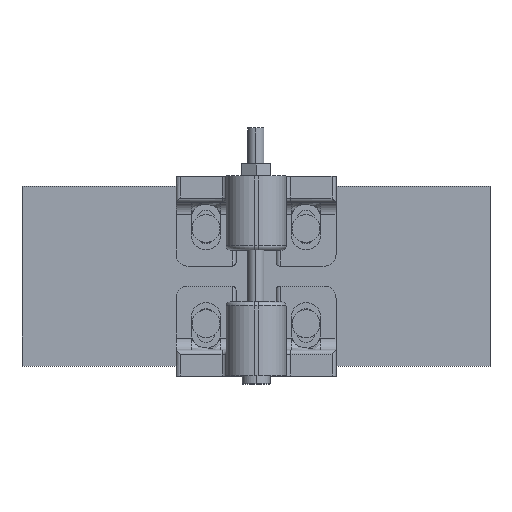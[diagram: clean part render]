
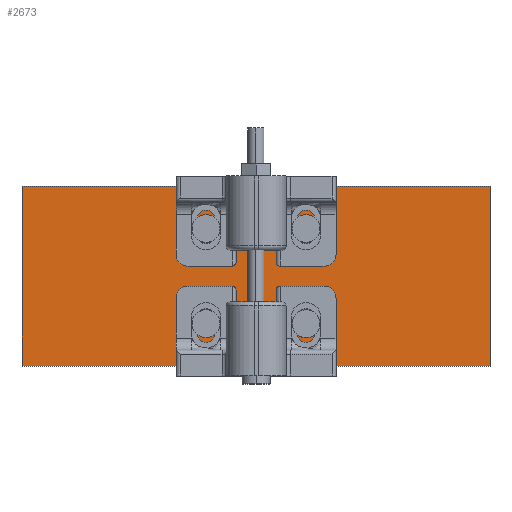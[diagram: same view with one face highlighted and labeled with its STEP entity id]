
A CAD part, top view. The second image highlights one B-rep face of the part: STEP entity #2673.
In plain terms, the highlighted planar face has unit normal (0, 0, 1).
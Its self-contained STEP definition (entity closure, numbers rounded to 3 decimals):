
#104 = VERTEX_POINT ( 'NONE', #9336 ) ;
#207 = ORIENTED_EDGE ( 'NONE', *, *, #9162, .T. ) ;
#222 = ORIENTED_EDGE ( 'NONE', *, *, #580, .T. ) ;
#267 = VERTEX_POINT ( 'NONE', #862 ) ;
#386 = ORIENTED_EDGE ( 'NONE', *, *, #7589, .T. ) ;
#446 = CARTESIAN_POINT ( 'NONE',  ( 58.5, -22.5, 6.25 ) ) ;
#494 = DIRECTION ( 'NONE',  ( 0., 0., -1. ) ) ;
#519 = VERTEX_POINT ( 'NONE', #9287 ) ;
#580 = EDGE_CURVE ( 'NONE', #267, #6630, #3363, .T. ) ;
#636 = AXIS2_PLACEMENT_3D ( 'NONE', #3314, #2622, #4155 ) ;
#644 = CIRCLE ( 'NONE', #4723, 2. ) ;
#647 = AXIS2_PLACEMENT_3D ( 'NONE', #2138, #7096, #3502 ) ;
#653 = AXIS2_PLACEMENT_3D ( 'NONE', #4688, #6957, #2667 ) ;
#704 = ORIENTED_EDGE ( 'NONE', *, *, #7119, .T. ) ;
#777 = LINE ( 'NONE', #9301, #4282 ) ;
#839 = CIRCLE ( 'NONE', #6564, 2. ) ;
#852 = EDGE_CURVE ( 'NONE', #3039, #2909, #4115, .T. ) ;
#862 = CARTESIAN_POINT ( 'NONE',  ( -14.5, -11.9, 6.25 ) ) ;
#1046 = VECTOR ( 'NONE', #2226, 1000. ) ;
#1302 = CARTESIAN_POINT ( 'NONE',  ( 12.5, 11.9, 6.25 ) ) ;
#1383 = EDGE_LOOP ( 'NONE', ( #222, #704 ) ) ;
#1553 = EDGE_CURVE ( 'NONE', #104, #3406, #777, .T. ) ;
#1637 = CARTESIAN_POINT ( 'NONE',  ( -14.5, 11.9, 6.25 ) ) ;
#1658 = VECTOR ( 'NONE', #6725, 1000. ) ;
#1793 = FACE_BOUND ( 'NONE', #3757, .T. ) ;
#1935 = VERTEX_POINT ( 'NONE', #3984 ) ;
#1978 = CIRCLE ( 'NONE', #6947, 2. ) ;
#1983 = CARTESIAN_POINT ( 'NONE',  ( 12.5, -11.9, 6.25 ) ) ;
#2138 = CARTESIAN_POINT ( 'NONE',  ( -12.5, -11.9, 6.25 ) ) ;
#2175 = EDGE_CURVE ( 'NONE', #2909, #3039, #839, .T. ) ;
#2226 = DIRECTION ( 'NONE',  ( 1., 0., 0. ) ) ;
#2238 = AXIS2_PLACEMENT_3D ( 'NONE', #8118, #6794, #8262 ) ;
#2273 = EDGE_LOOP ( 'NONE', ( #2602, #207, #2683, #2389 ) ) ;
#2325 = CIRCLE ( 'NONE', #4738, 2. ) ;
#2365 = PLANE ( 'NONE',  #2238 ) ;
#2389 = ORIENTED_EDGE ( 'NONE', *, *, #4630, .T. ) ;
#2406 = FACE_BOUND ( 'NONE', #1383, .T. ) ;
#2602 = ORIENTED_EDGE ( 'NONE', *, *, #1553, .T. ) ;
#2622 = DIRECTION ( 'NONE',  ( 0., 0., -1. ) ) ;
#2667 = DIRECTION ( 'NONE',  ( 1., 0., 0. ) ) ;
#2673 = ADVANCED_FACE ( 'NONE', ( #2406, #3903, #1793, #5332, #5381 ), #2365, .T. ) ;
#2683 = ORIENTED_EDGE ( 'NONE', *, *, #4907, .T. ) ;
#2764 = DIRECTION ( 'NONE',  ( 1., 0., 0. ) ) ;
#2877 = CARTESIAN_POINT ( 'NONE',  ( -58.5, -22.5, 6.25 ) ) ;
#2909 = VERTEX_POINT ( 'NONE', #5375 ) ;
#2962 = ORIENTED_EDGE ( 'NONE', *, *, #852, .F. ) ;
#2974 = EDGE_LOOP ( 'NONE', ( #8756, #5233 ) ) ;
#3039 = VERTEX_POINT ( 'NONE', #5836 ) ;
#3099 = VERTEX_POINT ( 'NONE', #1637 ) ;
#3229 = CARTESIAN_POINT ( 'NONE',  ( -12.5, 11.9, 6.25 ) ) ;
#3314 = CARTESIAN_POINT ( 'NONE',  ( -12.5, -11.9, 6.25 ) ) ;
#3316 = DIRECTION ( 'NONE',  ( 1., 0., 0. ) ) ;
#3330 = VECTOR ( 'NONE', #5697, 1000. ) ;
#3363 = CIRCLE ( 'NONE', #647, 2. ) ;
#3406 = VERTEX_POINT ( 'NONE', #2877 ) ;
#3432 = DIRECTION ( 'NONE',  ( 1., 0., 0. ) ) ;
#3502 = DIRECTION ( 'NONE',  ( 1., 0., 0. ) ) ;
#3531 = LINE ( 'NONE', #8638, #3330 ) ;
#3603 = CIRCLE ( 'NONE', #5113, 2. ) ;
#3757 = EDGE_LOOP ( 'NONE', ( #6282, #2962 ) ) ;
#3840 = CARTESIAN_POINT ( 'NONE',  ( -58.5, 22.5, 6.25 ) ) ;
#3903 = FACE_BOUND ( 'NONE', #2974, .T. ) ;
#3925 = DIRECTION ( 'NONE',  ( 0., 0., 1. ) ) ;
#3984 = CARTESIAN_POINT ( 'NONE',  ( 14.5, 11.9, 6.25 ) ) ;
#4115 = CIRCLE ( 'NONE', #653, 2. ) ;
#4155 = DIRECTION ( 'NONE',  ( 1., 0., 0. ) ) ;
#4282 = VECTOR ( 'NONE', #7914, 1000. ) ;
#4330 = CARTESIAN_POINT ( 'NONE',  ( -10.5, -11.9, 6.25 ) ) ;
#4331 = EDGE_CURVE ( 'NONE', #4726, #1935, #1978, .T. ) ;
#4630 = EDGE_CURVE ( 'NONE', #519, #104, #9005, .T. ) ;
#4688 = CARTESIAN_POINT ( 'NONE',  ( 12.5, -11.9, 6.25 ) ) ;
#4723 = AXIS2_PLACEMENT_3D ( 'NONE', #7769, #494, #9244 ) ;
#4726 = VERTEX_POINT ( 'NONE', #6129 ) ;
#4738 = AXIS2_PLACEMENT_3D ( 'NONE', #3229, #3925, #3316 ) ;
#4772 = VERTEX_POINT ( 'NONE', #7639 ) ;
#4907 = EDGE_CURVE ( 'NONE', #7518, #519, #3531, .T. ) ;
#4970 = DIRECTION ( 'NONE',  ( 1., 0., 0. ) ) ;
#5113 = AXIS2_PLACEMENT_3D ( 'NONE', #7898, #6520, #2764 ) ;
#5233 = ORIENTED_EDGE ( 'NONE', *, *, #6248, .F. ) ;
#5332 = FACE_BOUND ( 'NONE', #6992, .T. ) ;
#5375 = CARTESIAN_POINT ( 'NONE',  ( 10.5, -11.9, 6.25 ) ) ;
#5381 = FACE_OUTER_BOUND ( 'NONE', #2273, .T. ) ;
#5520 = DIRECTION ( 'NONE',  ( 0., 0., 1. ) ) ;
#5697 = DIRECTION ( 'NONE',  ( 0., 1., 0. ) ) ;
#5836 = CARTESIAN_POINT ( 'NONE',  ( 14.5, -11.9, 6.25 ) ) ;
#6004 = CARTESIAN_POINT ( 'NONE',  ( -58.5, -22.5, 6.25 ) ) ;
#6129 = CARTESIAN_POINT ( 'NONE',  ( 10.5, 11.9, 6.25 ) ) ;
#6248 = EDGE_CURVE ( 'NONE', #4772, #3099, #2325, .T. ) ;
#6282 = ORIENTED_EDGE ( 'NONE', *, *, #2175, .F. ) ;
#6520 = DIRECTION ( 'NONE',  ( 0., 0., 1. ) ) ;
#6564 = AXIS2_PLACEMENT_3D ( 'NONE', #1983, #5520, #3432 ) ;
#6630 = VERTEX_POINT ( 'NONE', #4330 ) ;
#6725 = DIRECTION ( 'NONE',  ( -1., 0., 0. ) ) ;
#6794 = DIRECTION ( 'NONE',  ( 0., 0., 1. ) ) ;
#6926 = ORIENTED_EDGE ( 'NONE', *, *, #4331, .T. ) ;
#6947 = AXIS2_PLACEMENT_3D ( 'NONE', #1302, #7811, #4970 ) ;
#6957 = DIRECTION ( 'NONE',  ( 0., 0., 1. ) ) ;
#6992 = EDGE_LOOP ( 'NONE', ( #6926, #386 ) ) ;
#7096 = DIRECTION ( 'NONE',  ( 0., 0., -1. ) ) ;
#7119 = EDGE_CURVE ( 'NONE', #6630, #267, #7585, .T. ) ;
#7518 = VERTEX_POINT ( 'NONE', #446 ) ;
#7585 = CIRCLE ( 'NONE', #636, 2. ) ;
#7589 = EDGE_CURVE ( 'NONE', #1935, #4726, #644, .T. ) ;
#7639 = CARTESIAN_POINT ( 'NONE',  ( -10.5, 11.9, 6.25 ) ) ;
#7769 = CARTESIAN_POINT ( 'NONE',  ( 12.5, 11.9, 6.25 ) ) ;
#7811 = DIRECTION ( 'NONE',  ( 0., 0., -1. ) ) ;
#7898 = CARTESIAN_POINT ( 'NONE',  ( -12.5, 11.9, 6.25 ) ) ;
#7914 = DIRECTION ( 'NONE',  ( 0., -1., 0. ) ) ;
#8118 = CARTESIAN_POINT ( 'NONE',  ( 0., 0., 6.25 ) ) ;
#8262 = DIRECTION ( 'NONE',  ( 1., 0., 0. ) ) ;
#8638 = CARTESIAN_POINT ( 'NONE',  ( 58.5, 22.5, 6.25 ) ) ;
#8751 = LINE ( 'NONE', #6004, #1046 ) ;
#8756 = ORIENTED_EDGE ( 'NONE', *, *, #9103, .F. ) ;
#9005 = LINE ( 'NONE', #3840, #1658 ) ;
#9103 = EDGE_CURVE ( 'NONE', #3099, #4772, #3603, .T. ) ;
#9162 = EDGE_CURVE ( 'NONE', #3406, #7518, #8751, .T. ) ;
#9244 = DIRECTION ( 'NONE',  ( 1., 0., 0. ) ) ;
#9287 = CARTESIAN_POINT ( 'NONE',  ( 58.5, 22.5, 6.25 ) ) ;
#9301 = CARTESIAN_POINT ( 'NONE',  ( -58.5, 22.5, 6.25 ) ) ;
#9336 = CARTESIAN_POINT ( 'NONE',  ( -58.5, 22.5, 6.25 ) ) ;
